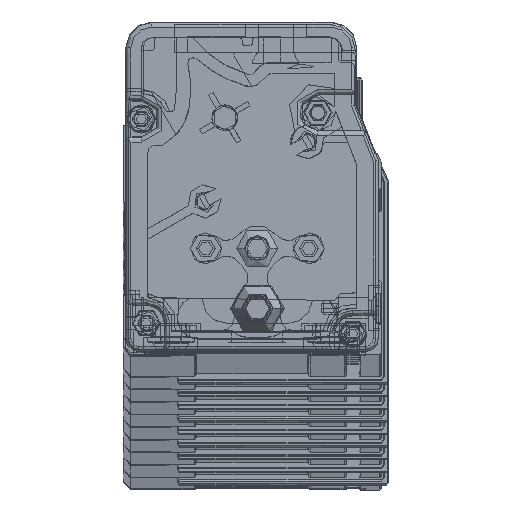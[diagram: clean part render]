
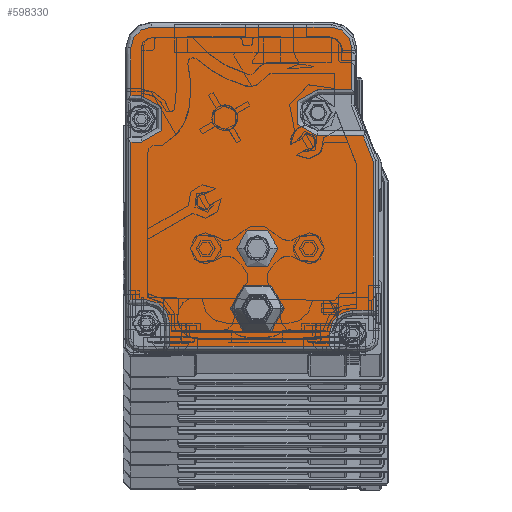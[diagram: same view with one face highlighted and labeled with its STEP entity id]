
A CAD part, top view. The second image highlights one B-rep face of the part: STEP entity #598330.
In plain terms, the highlighted planar face has unit normal (0, 0, 1).
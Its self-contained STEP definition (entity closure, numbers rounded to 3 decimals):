
#596220=CARTESIAN_POINT('',(-20.265,1.758,
4772.39));
#596230=DIRECTION('',(0.,0.,-1.));
#596240=DIRECTION('',(-1.,0.,0.));
#596250=AXIS2_PLACEMENT_3D('',#596220,#596230,#596240);
#596260=PLANE('',#596250);
#596270=CARTESIAN_POINT('',(-44.056,10.421,
4772.39));
#596280=DIRECTION('',(0.,0.,-1.));
#596290=DIRECTION('',(-1.,0.,0.));
#596300=AXIS2_PLACEMENT_3D('',#596270,#596280,#596290);
#596310=CIRCLE('',#596300,5.);
#596320=CARTESIAN_POINT('',(-49.056,10.421,
4772.39));
#596330=VERTEX_POINT('',#596320);
#596340=CARTESIAN_POINT('',(-39.056,10.421,
4772.39));
#596350=VERTEX_POINT('',#596340);
#596360=EDGE_CURVE('',#596330,#596350,#596310,.T.);
#596370=ORIENTED_EDGE('',*,*,#596360,.T.);
#596380=EDGE_CURVE('',#596350,#596330,#596310,.T.);
#596390=ORIENTED_EDGE('',*,*,#596380,.T.);
#596400=EDGE_LOOP('',(#596390,#596370));
#596410=FACE_BOUND('',#596400,.T.);
#596420=CARTESIAN_POINT('',(-44.059,22.124,
4772.39));
#596430=DIRECTION('',(0.,0.,1.));
#596440=DIRECTION('',(-1.,0.,0.));
#596450=AXIS2_PLACEMENT_3D('',#596420,#596430,#596440);
#596460=CIRCLE('',#596450,4.);
#596470=CARTESIAN_POINT('',(-40.059,22.124,
4772.39));
#596480=VERTEX_POINT('',#596470);
#596490=CARTESIAN_POINT('',(-48.059,22.124,
4772.39));
#596500=VERTEX_POINT('',#596490);
#596510=EDGE_CURVE('',#596480,#596500,#596460,.T.);
#596520=ORIENTED_EDGE('',*,*,#596510,.F.);
#596530=EDGE_CURVE('',#596500,#596480,#596460,.T.);
#596540=ORIENTED_EDGE('',*,*,#596530,.F.);
#596550=EDGE_LOOP('',(#596540,#596520));
#596560=FACE_BOUND('',#596550,.T.);
#596570=CARTESIAN_POINT('',(-61.059,2.124,
4772.39));
#596580=DIRECTION('',(0.,-1.,0.));
#596590=VECTOR('',#596580,1.);
#596600=LINE('',#596570,#596590);
#596610=CARTESIAN_POINT('',(-61.059,7.624,
4772.39));
#596620=VERTEX_POINT('',#596610);
#596630=CARTESIAN_POINT('',(-61.059,3.124,
4772.39));
#596640=VERTEX_POINT('',#596630);
#596650=EDGE_CURVE('',#596620,#596640,#596600,.T.);
#596660=ORIENTED_EDGE('',*,*,#596650,.T.);
#596670=CARTESIAN_POINT('',(-65.559,7.624,
4772.39));
#596680=DIRECTION('',(0.,0.,-1.));
#596690=DIRECTION('',(-1.,0.,0.));
#596700=AXIS2_PLACEMENT_3D('',#596670,#596680,#596690);
#596710=CIRCLE('',#596700,4.5);
#596720=CARTESIAN_POINT('',(-65.559,12.124,
4772.39));
#596730=VERTEX_POINT('',#596720);
#596740=EDGE_CURVE('',#596730,#596620,#596710,.T.);
#596750=ORIENTED_EDGE('',*,*,#596740,.T.);
#596760=CARTESIAN_POINT('',(-20.559,12.124,
4772.39));
#596770=DIRECTION('',(1.,0.,0.));
#596780=VECTOR('',#596770,1.);
#596790=LINE('',#596760,#596780);
#596800=CARTESIAN_POINT('',(-68.559,12.124,
4772.39));
#596810=VERTEX_POINT('',#596800);
#596820=EDGE_CURVE('',#596810,#596730,#596790,.T.);
#596830=ORIENTED_EDGE('',*,*,#596820,.T.);
#596840=CARTESIAN_POINT('',(-68.559,2.124,
4772.39));
#596850=DIRECTION('',(0.,-1.,0.));
#596860=VECTOR('',#596850,1.);
#596870=LINE('',#596840,#596860);
#596880=CARTESIAN_POINT('',(-68.559,42.727,
4772.39));
#596890=VERTEX_POINT('',#596880);
#596900=EDGE_CURVE('',#596890,#596810,#596870,.T.);
#596910=ORIENTED_EDGE('',*,*,#596900,.T.);
#596920=CARTESIAN_POINT('',(-20.559,42.727,
4772.39));
#596930=DIRECTION('',(-1.,0.,0.));
#596940=VECTOR('',#596930,1.);
#596950=LINE('',#596920,#596940);
#596960=CARTESIAN_POINT('',(-66.559,42.727,
4772.39));
#596970=VERTEX_POINT('',#596960);
#596980=EDGE_CURVE('',#596970,#596890,#596950,.T.);
#596990=ORIENTED_EDGE('',*,*,#596980,.T.);
#597000=CARTESIAN_POINT('',(-66.559,47.227,
4772.39));
#597010=DIRECTION('',(0.,0.,-1.));
#597020=DIRECTION('',(-1.,0.,0.));
#597030=AXIS2_PLACEMENT_3D('',#597000,#597010,#597020);
#597040=CIRCLE('',#597030,4.5);
#597050=CARTESIAN_POINT('',(-66.559,51.727,
4772.39));
#597060=VERTEX_POINT('',#597050);
#597070=EDGE_CURVE('',#597060,#596970,#597040,.T.);
#597080=ORIENTED_EDGE('',*,*,#597070,.T.);
#597090=CARTESIAN_POINT('',(-20.559,51.727,
4772.39));
#597100=DIRECTION('',(1.,0.,0.));
#597110=VECTOR('',#597100,1.);
#597120=LINE('',#597090,#597110);
#597130=CARTESIAN_POINT('',(-68.559,51.727,
4772.39));
#597140=VERTEX_POINT('',#597130);
#597150=EDGE_CURVE('',#597140,#597060,#597120,.T.);
#597160=ORIENTED_EDGE('',*,*,#597150,.T.);
#597170=CARTESIAN_POINT('',(-68.559,2.124,
4772.39));
#597180=DIRECTION('',(0.,-1.,0.));
#597190=VECTOR('',#597180,1.);
#597200=LINE('',#597170,#597190);
#597210=CARTESIAN_POINT('',(-68.559,61.024,
4772.39));
#597220=VERTEX_POINT('',#597210);
#597230=EDGE_CURVE('',#597220,#597140,#597200,.T.);
#597240=ORIENTED_EDGE('',*,*,#597230,.T.);
#597250=CARTESIAN_POINT('',(-64.559,61.024,
4772.39));
#597260=DIRECTION('',(0.,0.,1.));
#597270=DIRECTION('',(1.,0.,0.));
#597280=AXIS2_PLACEMENT_3D('',#597250,#597260,#597270);
#597290=CIRCLE('',#597280,4.);
#597300=CARTESIAN_POINT('',(-64.559,65.024,
4772.39));
#597310=VERTEX_POINT('',#597300);
#597320=EDGE_CURVE('',#597310,#597220,#597290,.T.);
#597330=ORIENTED_EDGE('',*,*,#597320,.T.);
#597340=CARTESIAN_POINT('',(-20.559,65.024,
4772.39));
#597350=DIRECTION('',(-1.,0.,0.));
#597360=VECTOR('',#597350,1.);
#597370=LINE('',#597340,#597360);
#597380=CARTESIAN_POINT('',(-29.759,65.024,
4772.39));
#597390=VERTEX_POINT('',#597380);
#597400=EDGE_CURVE('',#597390,#597310,#597370,.T.);
#597410=ORIENTED_EDGE('',*,*,#597400,.T.);
#597420=CARTESIAN_POINT('',(-29.759,61.024,
4772.39));
#597430=DIRECTION('',(0.,0.,1.));
#597440=DIRECTION('',(1.,0.,0.));
#597450=AXIS2_PLACEMENT_3D('',#597420,#597430,#597440);
#597460=CIRCLE('',#597450,4.);
#597470=CARTESIAN_POINT('',(-25.759,61.024,
4772.39));
#597480=VERTEX_POINT('',#597470);
#597490=EDGE_CURVE('',#597480,#597390,#597460,.T.);
#597500=ORIENTED_EDGE('',*,*,#597490,.T.);
#597510=CARTESIAN_POINT('',(-25.759,2.124,
4772.39));
#597520=DIRECTION('',(0.,1.,0.));
#597530=VECTOR('',#597520,1.);
#597540=LINE('',#597510,#597530);
#597550=CARTESIAN_POINT('',(-25.759,52.924,
4772.39));
#597560=VERTEX_POINT('',#597550);
#597570=EDGE_CURVE('',#597560,#597480,#597540,.T.);
#597580=ORIENTED_EDGE('',*,*,#597570,.T.);
#597590=CARTESIAN_POINT('',(-20.559,52.924,
4772.39));
#597600=DIRECTION('',(-1.,0.,0.));
#597610=VECTOR('',#597600,1.);
#597620=LINE('',#597590,#597610);
#597630=CARTESIAN_POINT('',(-32.309,52.924,
4772.39));
#597640=VERTEX_POINT('',#597630);
#597650=EDGE_CURVE('',#597560,#597640,#597620,.T.);
#597660=ORIENTED_EDGE('',*,*,#597650,.F.);
#597670=CARTESIAN_POINT('',(-32.309,48.424,
4772.39));
#597680=DIRECTION('',(0.,0.,-1.));
#597690=DIRECTION('',(-1.,0.,0.));
#597700=AXIS2_PLACEMENT_3D('',#597670,#597680,#597690);
#597710=CIRCLE('',#597700,4.5);
#597720=CARTESIAN_POINT('',(-32.309,43.924,
4772.39));
#597730=VERTEX_POINT('',#597720);
#597740=EDGE_CURVE('',#597730,#597640,#597710,.T.);
#597750=ORIENTED_EDGE('',*,*,#597740,.T.);
#597760=CARTESIAN_POINT('',(-20.559,43.924,
4772.39));
#597770=DIRECTION('',(-1.,0.,0.));
#597780=VECTOR('',#597770,1.);
#597790=LINE('',#597760,#597780);
#597800=CARTESIAN_POINT('',(-23.499,43.924,
4772.39));
#597810=VERTEX_POINT('',#597800);
#597820=EDGE_CURVE('',#597810,#597730,#597790,.T.);
#597830=ORIENTED_EDGE('',*,*,#597820,.T.);
#597840=CARTESIAN_POINT('',(-7.243,2.124,
4772.39));
#597850=DIRECTION('',(0.362,-0.932,0.));
#597860=VECTOR('',#597850,1.);
#597870=LINE('',#597840,#597860);
#597880=CARTESIAN_POINT('',(-21.559,38.937,
4772.39));
#597890=VERTEX_POINT('',#597880);
#597900=EDGE_CURVE('',#597810,#597890,#597870,.T.);
#597910=ORIENTED_EDGE('',*,*,#597900,.F.);
#597920=CARTESIAN_POINT('',(-21.559,2.124,
4772.39));
#597930=DIRECTION('',(0.,-1.,0.));
#597940=VECTOR('',#597930,1.);
#597950=LINE('',#597920,#597940);
#597960=CARTESIAN_POINT('',(-21.559,10.124,
4772.39));
#597970=VERTEX_POINT('',#597960);
#597980=EDGE_CURVE('',#597890,#597970,#597950,.T.);
#597990=ORIENTED_EDGE('',*,*,#597980,.F.);
#598000=CARTESIAN_POINT('',(-20.559,10.124,
4772.39));
#598010=DIRECTION('',(1.,0.,0.));
#598020=VECTOR('',#598010,1.);
#598030=LINE('',#598000,#598020);
#598040=CARTESIAN_POINT('',(-25.559,10.124,
4772.39));
#598050=VERTEX_POINT('',#598040);
#598060=EDGE_CURVE('',#598050,#597970,#598030,.T.);
#598070=ORIENTED_EDGE('',*,*,#598060,.T.);
#598080=CARTESIAN_POINT('',(-25.559,5.624,
4772.39));
#598090=DIRECTION('',(0.,0.,-1.));
#598100=DIRECTION('',(-1.,0.,0.));
#598110=AXIS2_PLACEMENT_3D('',#598080,#598090,#598100);
#598120=CIRCLE('',#598110,4.5);
#598130=CARTESIAN_POINT('',(-30.059,5.624,
4772.39));
#598140=VERTEX_POINT('',#598130);
#598150=EDGE_CURVE('',#598140,#598050,#598120,.T.);
#598160=ORIENTED_EDGE('',*,*,#598150,.T.);
#598170=CARTESIAN_POINT('',(-30.059,2.124,
4772.39));
#598180=DIRECTION('',(0.,1.,0.));
#598190=VECTOR('',#598180,1.);
#598200=LINE('',#598170,#598190);
#598210=CARTESIAN_POINT('',(-30.059,3.124,
4772.39));
#598220=VERTEX_POINT('',#598210);
#598230=EDGE_CURVE('',#598220,#598140,#598200,.T.);
#598240=ORIENTED_EDGE('',*,*,#598230,.T.);
#598250=CARTESIAN_POINT('',(-20.559,3.124,
4772.39));
#598260=DIRECTION('',(-1.,0.,0.));
#598270=VECTOR('',#598260,1.);
#598280=LINE('',#598250,#598270);
#598290=EDGE_CURVE('',#598220,#596640,#598280,.T.);
#598300=ORIENTED_EDGE('',*,*,#598290,.F.);
#598310=EDGE_LOOP('',(#598300,#598240,#598160,#598070,#597990,#597910,
#597830,#597750,#597660,#597580,#597500,#597410,#597330,#597240,#597160,
#597080,#596990,#596910,#596830,#596750,#596660));
#598320=FACE_OUTER_BOUND('',#598310,.T.);
#598330=ADVANCED_FACE('',(#596410,#596560,#598320),#596260,.F.);
